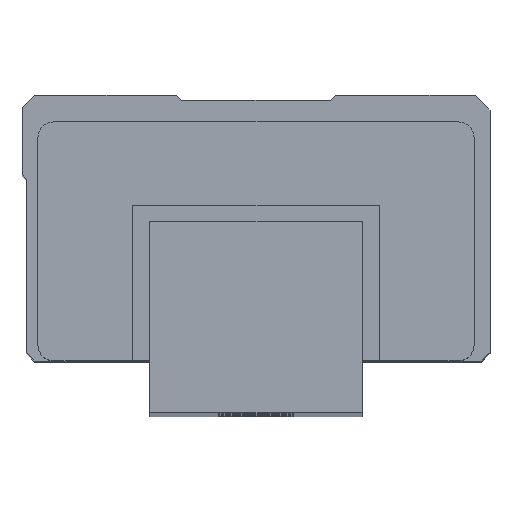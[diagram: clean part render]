
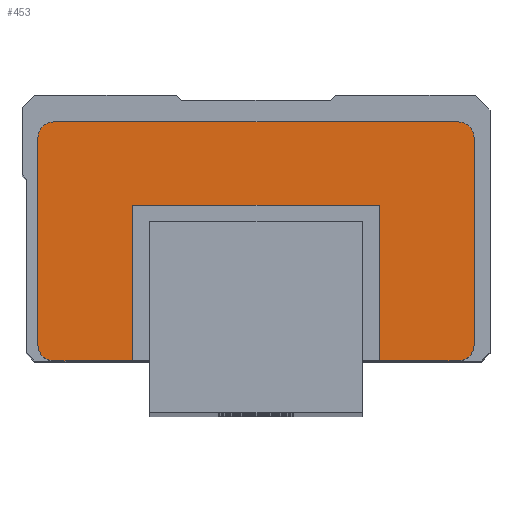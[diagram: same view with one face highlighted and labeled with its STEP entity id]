
A CAD part, top view. The second image highlights one B-rep face of the part: STEP entity #453.
In plain terms, the highlighted planar face has unit normal (0, 0, 1).
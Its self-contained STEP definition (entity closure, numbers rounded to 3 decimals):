
#453 = ADVANCED_FACE( '', ( #745 ), #746, .T. );
#745 = FACE_OUTER_BOUND( '', #1037, .T. );
#746 = PLANE( '', #1038 );
#1037 = EDGE_LOOP( '', ( #2101, #2102, #2103, #2104, #2105, #2106, #2107, #2108, #2109, #2110, #2111, #2112 ) );
#1038 = AXIS2_PLACEMENT_3D( '', #2113, #2114, #2115 );
#2101 = ORIENTED_EDGE( '', *, *, #2443, .F. );
#2102 = ORIENTED_EDGE( '', *, *, #2467, .F. );
#2103 = ORIENTED_EDGE( '', *, *, #2464, .F. );
#2104 = ORIENTED_EDGE( '', *, *, #2461, .F. );
#2105 = ORIENTED_EDGE( '', *, *, #2458, .F. );
#2106 = ORIENTED_EDGE( '', *, *, #2455, .F. );
#2107 = ORIENTED_EDGE( '', *, *, #2435, .F. );
#2108 = ORIENTED_EDGE( '', *, *, #2439, .F. );
#2109 = ORIENTED_EDGE( '', *, *, #2421, .F. );
#2110 = ORIENTED_EDGE( '', *, *, #2453, .F. );
#2111 = ORIENTED_EDGE( '', *, *, #2450, .F. );
#2112 = ORIENTED_EDGE( '', *, *, #2447, .F. );
#2113 = CARTESIAN_POINT( '', ( 10., 17.685, 156.2 ) );
#2114 = DIRECTION( '', ( 0., 0., 1. ) );
#2115 = DIRECTION( '', ( 1., 0., 0. ) );
#2421 = EDGE_CURVE( '', #2947, #2948, #2949, .T. );
#2435 = EDGE_CURVE( '', #2973, #2974, #2975, .T. );
#2439 = EDGE_CURVE( '', #2948, #2973, #2981, .T. );
#2443 = EDGE_CURVE( '', #2985, #2986, #2987, .T. );
#2447 = EDGE_CURVE( '', #2986, #2993, #2994, .T. );
#2450 = EDGE_CURVE( '', #2993, #2998, #2999, .T. );
#2453 = EDGE_CURVE( '', #2998, #2947, #3003, .T. );
#2455 = EDGE_CURVE( '', #2974, #3005, #3006, .T. );
#2458 = EDGE_CURVE( '', #3005, #3010, #3011, .T. );
#2461 = EDGE_CURVE( '', #3010, #3015, #3016, .T. );
#2464 = EDGE_CURVE( '', #3015, #3020, #3021, .T. );
#2467 = EDGE_CURVE( '', #3020, #2985, #3025, .T. );
#2947 = VERTEX_POINT( '', #3707 );
#2948 = VERTEX_POINT( '', #3708 );
#2949 = LINE( '', #3709, #3710 );
#2973 = VERTEX_POINT( '', #3747 );
#2974 = VERTEX_POINT( '', #3748 );
#2975 = LINE( '', #3749, #3750 );
#2981 = LINE( '', #3759, #3760 );
#2985 = VERTEX_POINT( '', #3767 );
#2986 = VERTEX_POINT( '', #3768 );
#2987 = CIRCLE( '', #3769, 1.5 );
#2993 = VERTEX_POINT( '', #3777 );
#2994 = LINE( '', #3778, #3779 );
#2998 = VERTEX_POINT( '', #3785 );
#2999 = CIRCLE( '', #3786, 1.5 );
#3003 = LINE( '', #3791, #3792 );
#3005 = VERTEX_POINT( '', #3795 );
#3006 = LINE( '', #3796, #3797 );
#3010 = VERTEX_POINT( '', #3803 );
#3011 = CIRCLE( '', #3804, 1.5 );
#3015 = VERTEX_POINT( '', #3809 );
#3016 = LINE( '', #3810, #3811 );
#3020 = VERTEX_POINT( '', #3817 );
#3021 = CIRCLE( '', #3818, 1.5 );
#3025 = LINE( '', #3823, #3824 );
#3707 = CARTESIAN_POINT( '', ( 21.6, 5., 156.2 ) );
#3708 = CARTESIAN_POINT( '', ( 21.6, 19.6, 156.2 ) );
#3709 = CARTESIAN_POINT( '', ( 21.6, 19.6, 156.2 ) );
#3710 = VECTOR( '', #4293, 1. );
#3747 = CARTESIAN_POINT( '', ( -1.6, 19.6, 156.2 ) );
#3748 = CARTESIAN_POINT( '', ( -1.6, 5., 156.2 ) );
#3749 = CARTESIAN_POINT( '', ( -1.6, 19.6, 156.2 ) );
#3750 = VECTOR( '', #4307, 1. );
#3759 = CARTESIAN_POINT( '', ( 21.6, 19.6, 156.2 ) );
#3760 = VECTOR( '', #4311, 1. );
#3767 = CARTESIAN_POINT( '', ( 29., 27.45, 156.2 ) );
#3768 = CARTESIAN_POINT( '', ( 30.5, 25.95, 156.2 ) );
#3769 = AXIS2_PLACEMENT_3D( '', #4315, #4316, #4317 );
#3777 = CARTESIAN_POINT( '', ( 30.5, 6.5, 156.2 ) );
#3778 = CARTESIAN_POINT( '', ( 30.5, 25.95, 156.2 ) );
#3779 = VECTOR( '', #4323, 1. );
#3785 = CARTESIAN_POINT( '', ( 29., 5., 156.2 ) );
#3786 = AXIS2_PLACEMENT_3D( '', #4326, #4327, #4328 );
#3791 = CARTESIAN_POINT( '', ( 29., 5., 156.2 ) );
#3792 = VECTOR( '', #4333, 1. );
#3795 = CARTESIAN_POINT( '', ( -9., 5., 156.2 ) );
#3796 = CARTESIAN_POINT( '', ( -1.6, 5., 156.2 ) );
#3797 = VECTOR( '', #4335, 1. );
#3803 = CARTESIAN_POINT( '', ( -10.5, 6.5, 156.2 ) );
#3804 = AXIS2_PLACEMENT_3D( '', #4338, #4339, #4340 );
#3809 = CARTESIAN_POINT( '', ( -10.5, 25.95, 156.2 ) );
#3810 = CARTESIAN_POINT( '', ( -10.5, 25.95, 156.2 ) );
#3811 = VECTOR( '', #4345, 1. );
#3817 = CARTESIAN_POINT( '', ( -9., 27.45, 156.2 ) );
#3818 = AXIS2_PLACEMENT_3D( '', #4348, #4349, #4350 );
#3823 = CARTESIAN_POINT( '', ( -9., 27.45, 156.2 ) );
#3824 = VECTOR( '', #4355, 1. );
#4293 = DIRECTION( '', ( 0., 1., 0. ) );
#4307 = DIRECTION( '', ( 0., -1., 0. ) );
#4311 = DIRECTION( '', ( -1., 0., 0. ) );
#4315 = CARTESIAN_POINT( '', ( 29., 25.95, 156.2 ) );
#4316 = DIRECTION( '', ( 0., 0., -1. ) );
#4317 = DIRECTION( '', ( 1., 0., 0. ) );
#4323 = DIRECTION( '', ( 0., -1., 0. ) );
#4326 = CARTESIAN_POINT( '', ( 29., 6.5, 156.2 ) );
#4327 = DIRECTION( '', ( 0., 0., -1. ) );
#4328 = DIRECTION( '', ( 1., 0., 0. ) );
#4333 = DIRECTION( '', ( -1., 0., 0. ) );
#4335 = DIRECTION( '', ( -1., 0., 0. ) );
#4338 = CARTESIAN_POINT( '', ( -9., 6.5, 156.2 ) );
#4339 = DIRECTION( '', ( 0., 0., -1. ) );
#4340 = DIRECTION( '', ( 1., 0., 0. ) );
#4345 = DIRECTION( '', ( 0., 1., 0. ) );
#4348 = CARTESIAN_POINT( '', ( -9., 25.95, 156.2 ) );
#4349 = DIRECTION( '', ( 0., 0., -1. ) );
#4350 = DIRECTION( '', ( 1., 0., 0. ) );
#4355 = DIRECTION( '', ( 1., 0., 0. ) );
